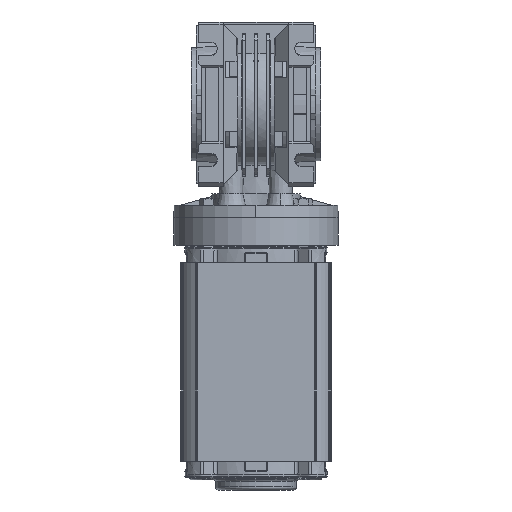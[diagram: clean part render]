
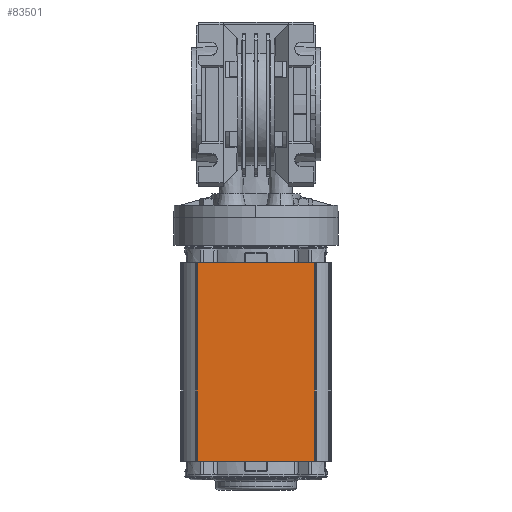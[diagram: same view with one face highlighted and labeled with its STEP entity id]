
A CAD part, front view. The second image highlights one B-rep face of the part: STEP entity #83501.
In plain terms, the highlighted planar face has unit normal (0, -1, 0).
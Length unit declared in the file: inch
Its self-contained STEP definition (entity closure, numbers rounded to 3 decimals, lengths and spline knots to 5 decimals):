
#1747 = DIRECTION ( 'NONE',  ( 0., 0., 1. ) ) ;
#2159 = VERTEX_POINT ( 'NONE', #39368 ) ;
#3338 = ORIENTED_EDGE ( 'NONE', *, *, #28362, .T. ) ;
#12633 = EDGE_CURVE ( 'NONE', #2159, #74397, #94309, .T. ) ;
#12642 = CARTESIAN_POINT ( 'NONE',  ( -1.1475, -1.442, -4.802 ) ) ;
#18792 = CARTESIAN_POINT ( 'NONE',  ( -1.1275, -1.442, -4.802 ) ) ;
#19306 = DIRECTION ( 'NONE',  ( 1., 0., 0. ) ) ;
#20170 = DIRECTION ( 'NONE',  ( 1., 0., 0. ) ) ;
#21516 = CARTESIAN_POINT ( 'NONE',  ( -1.1275, -1.442, -4.667 ) ) ;
#25069 = AXIS2_PLACEMENT_3D ( 'NONE', #12642, #64758, #20170 ) ;
#28362 = EDGE_CURVE ( 'NONE', #2159, #41229, #61587, .T. ) ;
#28949 = ORIENTED_EDGE ( 'NONE', *, *, #12633, .F. ) ;
#30845 = FACE_OUTER_BOUND ( 'NONE', #55518, .T. ) ;
#30952 = EDGE_CURVE ( 'NONE', #66879, #74397, #52906, .T. ) ;
#33632 = ORIENTED_EDGE ( 'NONE', *, *, #30952, .T. ) ;
#36158 = CARTESIAN_POINT ( 'NONE',  ( 1.1275, -1.442, -4.667 ) ) ;
#37104 = EDGE_CURVE ( 'NONE', #66879, #41229, #82475, .T. ) ;
#39368 = CARTESIAN_POINT ( 'NONE',  ( -1.1275, -1.442, -0.872 ) ) ;
#41229 = VERTEX_POINT ( 'NONE', #21516 ) ;
#43051 = VECTOR ( 'NONE', #73163, 39.37008 ) ;
#47582 = ORIENTED_EDGE ( 'NONE', *, *, #37104, .F. ) ;
#52906 = LINE ( 'NONE', #61324, #90129 ) ;
#54749 = VECTOR ( 'NONE', #19306, 39.37008 ) ;
#55518 = EDGE_LOOP ( 'NONE', ( #3338, #47582, #33632, #28949 ) ) ;
#61324 = CARTESIAN_POINT ( 'NONE',  ( 1.1275, -1.442, -4.802 ) ) ;
#61587 = LINE ( 'NONE', #18792, #81401 ) ;
#62233 = CARTESIAN_POINT ( 'NONE',  ( 1.1275, -1.442, -0.872 ) ) ;
#64758 = DIRECTION ( 'NONE',  ( 0., -1., 0. ) ) ;
#66879 = VERTEX_POINT ( 'NONE', #95596 ) ;
#73163 = DIRECTION ( 'NONE',  ( -1., 0., 0. ) ) ;
#74397 = VERTEX_POINT ( 'NONE', #62233 ) ;
#78925 = CARTESIAN_POINT ( 'NONE',  ( -1.1475, -1.442, -0.872 ) ) ;
#79468 = PLANE ( 'NONE',  #25069 ) ;
#81401 = VECTOR ( 'NONE', #92728, 39.37008 ) ;
#82475 = LINE ( 'NONE', #36158, #43051 ) ;
#83501 = ADVANCED_FACE ( 'NONE', ( #30845 ), #79468, .T. ) ;
#90129 = VECTOR ( 'NONE', #1747, 39.37008 ) ;
#92728 = DIRECTION ( 'NONE',  ( 0., 0., -1. ) ) ;
#94309 = LINE ( 'NONE', #78925, #54749 ) ;
#95596 = CARTESIAN_POINT ( 'NONE',  ( 1.1275, -1.442, -4.667 ) ) ;
